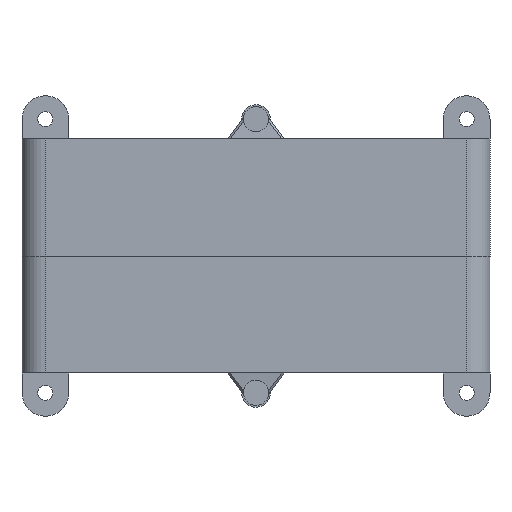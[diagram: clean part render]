
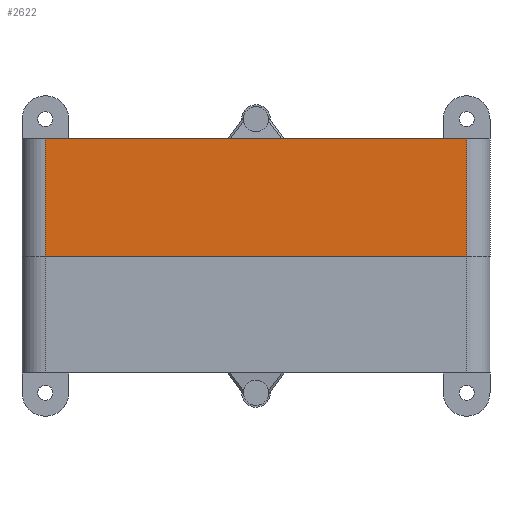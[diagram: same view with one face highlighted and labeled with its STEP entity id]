
A CAD part, front view. The second image highlights one B-rep face of the part: STEP entity #2622.
In plain terms, the highlighted planar face has unit normal (0, -1, 0).
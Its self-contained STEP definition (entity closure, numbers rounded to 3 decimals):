
#646 = EDGE_CURVE ( 'NONE', #23380, #1230, #26370, .T. ) ;
#1230 = VERTEX_POINT ( 'NONE', #22508 ) ;
#1645 = EDGE_LOOP ( 'NONE', ( #48706, #27950, #34624, #51736 ) ) ;
#1957 = DIRECTION ( 'NONE',  ( 1., 0., 0. ) ) ;
#1976 = DIRECTION ( 'NONE',  ( -1., 0., 0. ) ) ;
#2622 = ADVANCED_FACE ( 'NONE', ( #45944 ), #26139, .F. ) ;
#5203 = DIRECTION ( 'NONE',  ( 0., 1., 0. ) ) ;
#5739 = EDGE_CURVE ( 'NONE', #44323, #44020, #8355, .T. ) ;
#8355 = LINE ( 'NONE', #41588, #14132 ) ;
#11052 = VECTOR ( 'NONE', #1957, 1000. ) ;
#14132 = VECTOR ( 'NONE', #45067, 1000. ) ;
#14531 = CARTESIAN_POINT ( 'NONE',  ( 65., 0., 0. ) ) ;
#14711 = CARTESIAN_POINT ( 'NONE',  ( -58.5, 0., 0. ) ) ;
#17657 = DIRECTION ( 'NONE',  ( 0., 0., -1. ) ) ;
#19938 = VECTOR ( 'NONE', #34978, 1000. ) ;
#22508 = CARTESIAN_POINT ( 'NONE',  ( 58.5, 0., 0. ) ) ;
#23318 = VECTOR ( 'NONE', #17657, 1000. ) ;
#23380 = VERTEX_POINT ( 'NONE', #14711 ) ;
#26139 = PLANE ( 'NONE',  #50537 ) ;
#26370 = LINE ( 'NONE', #14531, #11052 ) ;
#26708 = EDGE_CURVE ( 'NONE', #44323, #23380, #50075, .T. ) ;
#27674 = CARTESIAN_POINT ( 'NONE',  ( 58.5, 0., 32.5 ) ) ;
#27950 = ORIENTED_EDGE ( 'NONE', *, *, #46077, .T. ) ;
#29616 = CARTESIAN_POINT ( 'NONE',  ( 65., 0., 32.5 ) ) ;
#34624 = ORIENTED_EDGE ( 'NONE', *, *, #5739, .F. ) ;
#34978 = DIRECTION ( 'NONE',  ( 0., 0., 1. ) ) ;
#38031 = CARTESIAN_POINT ( 'NONE',  ( -58.5, 0., 0. ) ) ;
#41588 = CARTESIAN_POINT ( 'NONE',  ( 65., 0., 32.5 ) ) ;
#42503 = LINE ( 'NONE', #47811, #19938 ) ;
#44020 = VERTEX_POINT ( 'NONE', #27674 ) ;
#44323 = VERTEX_POINT ( 'NONE', #52935 ) ;
#45067 = DIRECTION ( 'NONE',  ( 1., 0., 0. ) ) ;
#45944 = FACE_OUTER_BOUND ( 'NONE', #1645, .T. ) ;
#46077 = EDGE_CURVE ( 'NONE', #1230, #44020, #42503, .T. ) ;
#47811 = CARTESIAN_POINT ( 'NONE',  ( 58.5, 0., 32.5 ) ) ;
#48706 = ORIENTED_EDGE ( 'NONE', *, *, #646, .T. ) ;
#50075 = LINE ( 'NONE', #38031, #23318 ) ;
#50537 = AXIS2_PLACEMENT_3D ( 'NONE', #29616, #5203, #1976 ) ;
#51736 = ORIENTED_EDGE ( 'NONE', *, *, #26708, .T. ) ;
#52935 = CARTESIAN_POINT ( 'NONE',  ( -58.5, 0., 32.5 ) ) ;
